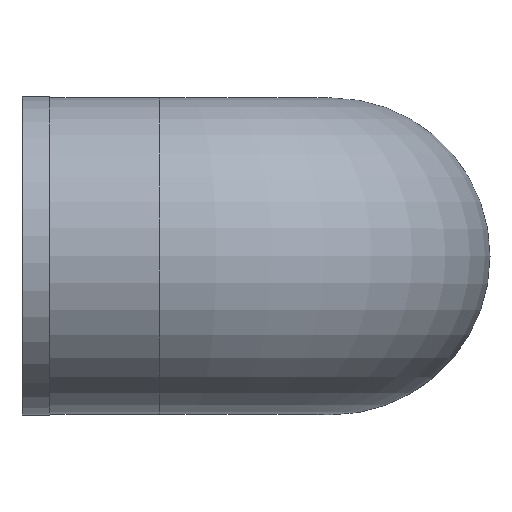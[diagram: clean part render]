
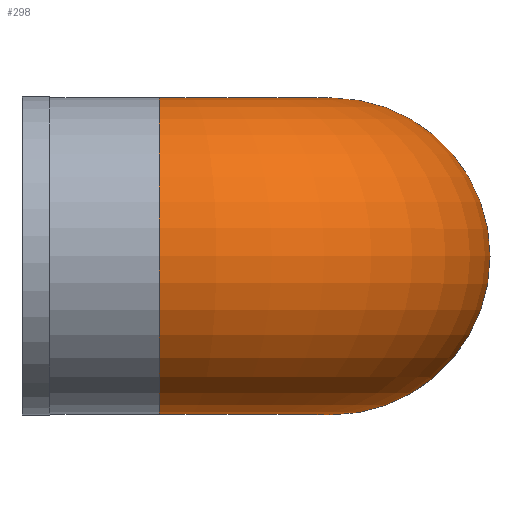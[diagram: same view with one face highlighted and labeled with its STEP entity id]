
A CAD part, top view. The second image highlights one B-rep face of the part: STEP entity #298.
In plain terms, the highlighted toroidal (fillet/blend) face has major radius 18.5 mm and minor radius 17 mm.
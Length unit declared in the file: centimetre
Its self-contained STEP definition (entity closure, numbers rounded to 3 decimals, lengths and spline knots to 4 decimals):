
#38=TOROIDAL_SURFACE('',#331,1.85,1.7);
#56=FACE_BOUND('',#110,.T.);
#77=FACE_OUTER_BOUND('',#109,.T.);
#109=EDGE_LOOP('',(#240));
#110=EDGE_LOOP('',(#241));
#131=CIRCLE('',#330,1.7);
#132=CIRCLE('',#332,1.7);
#156=VERTEX_POINT('',#3702);
#157=VERTEX_POINT('',#3705);
#187=EDGE_CURVE('',#156,#156,#131,.T.);
#188=EDGE_CURVE('',#157,#157,#132,.T.);
#240=ORIENTED_EDGE('',*,*,#187,.F.);
#241=ORIENTED_EDGE('',*,*,#188,.T.);
#298=ADVANCED_FACE('',(#77,#56),#38,.T.);
#330=AXIS2_PLACEMENT_3D('',#3703,#394,#395);
#331=AXIS2_PLACEMENT_3D('',#3704,#396,#397);
#332=AXIS2_PLACEMENT_3D('',#3706,#398,#399);
#394=DIRECTION('center_axis',(-1.,0.,0.));
#395=DIRECTION('ref_axis',(0.,0.,-1.));
#396=DIRECTION('center_axis',(0.,-1.,0.));
#397=DIRECTION('ref_axis',(0.,0.,-1.));
#398=DIRECTION('center_axis',(0.,0.,1.));
#399=DIRECTION('ref_axis',(-1.,0.,0.));
#3702=CARTESIAN_POINT('',(-1.2578,0.,3.275));
#3703=CARTESIAN_POINT('Origin',(-1.2578,0.,1.575));
#3704=CARTESIAN_POINT('Origin',(-1.2578,0.,-0.275));
#3705=CARTESIAN_POINT('',(2.2922,0.,-0.275));
#3706=CARTESIAN_POINT('Origin',(0.5922,0.,-0.275));
